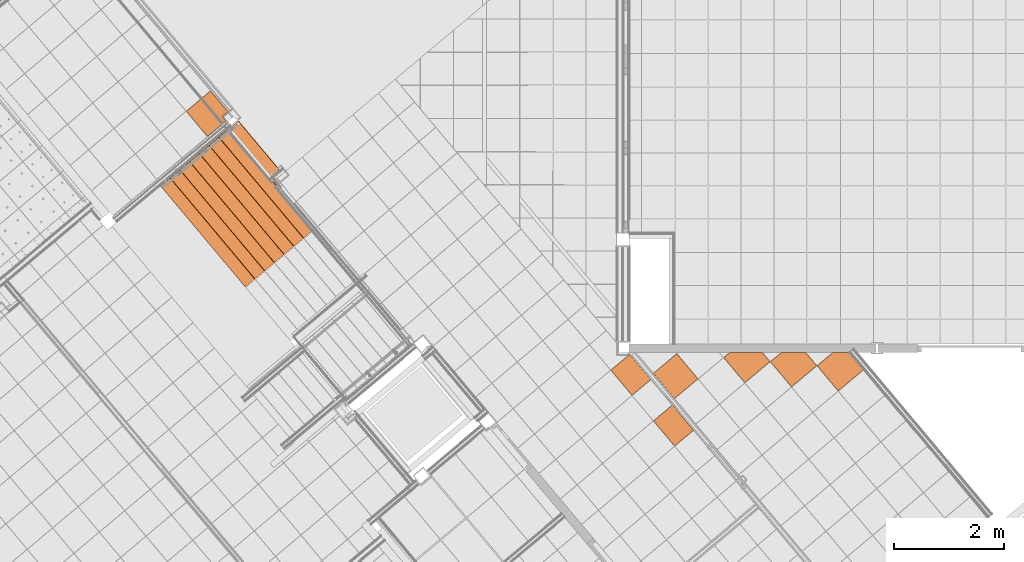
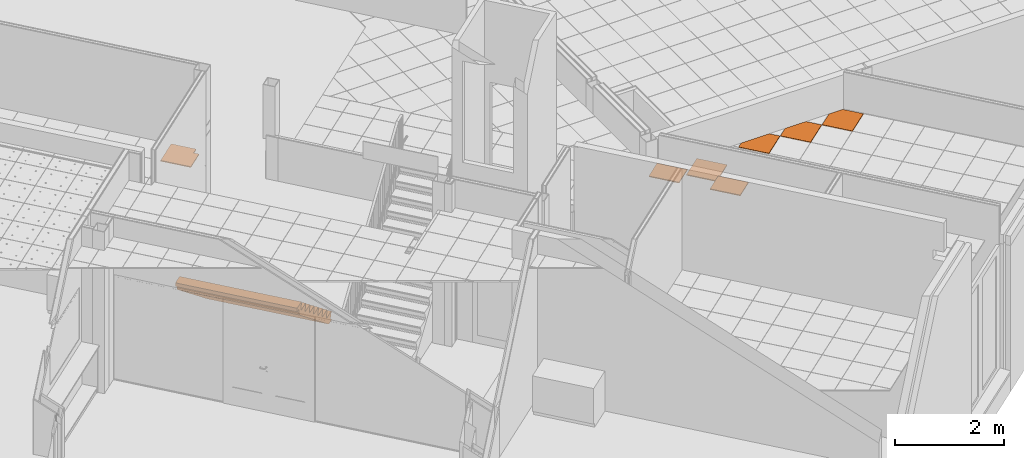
# One storey, part 319 of 338: 8 proxies, 3 elements without a shape of their own.
"""IFC2X3 building model written with IfcOpenShell, lengths in millimetres."""

from ifc_helpers import new_model, entity, si_unit, converted_unit, derived_unit, money_unit, direction, frame, origin_with_axes, place, context, subcontext, project, spatial, faceted_brep, material, type_object, element, aggregate, save


model = new_model("IFC2X3")

# Units and contexts
model_context = context("Model", 3, precision=0.01, world=origin_with_axes(), true_north=direction((0.0, 1.0)))
plan_context = context("Plan", 3, precision=0.01, world=origin_with_axes(), true_north=direction((0.0, 1.0)))
body_context = subcontext(model_context, "Body", "Model", "MODEL_VIEW")
ifc_project = project(units=[si_unit("LENGTHUNIT", "METRE", prefix="MILLI"), si_unit("AREAUNIT", "SQUARE_METRE"), si_unit("VOLUMEUNIT", "CUBIC_METRE"), converted_unit("PLANEANGLEUNIT", "DEGREE", entity("IfcPlaneAngleMeasure", 0.0174532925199), si_unit("PLANEANGLEUNIT", "RADIAN"), dimensions=[0, 0, 0, 0, 0, 0, 0]), money_unit("EUR"), converted_unit("TIMEUNIT", "Year", entity("IfcTimeMeasure", 31556926.0), si_unit("TIMEUNIT", "SECOND"), dimensions=[0, 0, 1, 0, 0, 0, 0]), si_unit("MASSUNIT", "GRAM", prefix="KILO"), si_unit("THERMODYNAMICTEMPERATUREUNIT", "DEGREE_CELSIUS"), si_unit("LUMINOUSINTENSITYUNIT", "LUMEN"), si_unit("ENERGYUNIT", "JOULE", prefix="MEGA"), derived_unit("THERMALCONDUCTANCEUNIT", [(si_unit("POWERUNIT", "WATT"), 1), (si_unit("LENGTHUNIT", "METRE"), -1), (si_unit("THERMODYNAMICTEMPERATUREUNIT", "KELVIN"), -1)]), derived_unit("SPECIFICHEATCAPACITYUNIT", [(si_unit("ENERGYUNIT", "JOULE"), 1), (si_unit("MASSUNIT", "GRAM", prefix="KILO"), -1), (si_unit("THERMODYNAMICTEMPERATUREUNIT", "KELVIN"), -1)]), derived_unit("MASSDENSITYUNIT", [(si_unit("MASSUNIT", "GRAM", prefix="KILO"), 1), (si_unit("VOLUMEUNIT", "CUBIC_METRE"), -1)])], contexts=[model_context, plan_context])

# Site, building, storey
site_placement = place(None, origin_with_axes())
site = spatial("IfcSite", under=ifc_project, at=site_placement, Name="Fortuinstraat Woensdrecht", CompositionType="ELEMENT")
building_placement = place(site_placement, origin_with_axes())
building = spatial("IfcBuilding", under=site, at=building_placement, Name="IKC Fortuna", CompositionType="ELEMENT")
storey_placement = place(building_placement, origin_with_axes())
storey = spatial("IfcBuildingStorey", under=building, at=storey_placement, Name="00 begane grond", CompositionType="ELEMENT", Elevation=0.0)

# Covering, proxy
covering_type = type_object("IfcCoveringType", Name="Curtain Wall Type", PredefinedType="CEILING")
covering_1_placement = place(storey_placement, frame((26804.4884552, -1724.43837499, 3010.0), z_axis=(0.0, 0.0, 1.0), x_axis=(1.0, 0.0, 0.0)))
covering_1 = element("IfcCovering", 1, at=covering_1_placement, inside=storey, type_object=covering_type, Name="45_Plafondafwerking_P04", PredefinedType="CEILING")
ifc_material = material(Name="Gipsplaat")
building_element_proxy_type_1 = type_object("IfcBuildingElementProxyType", Name="Distinct Panel 450 x 600 x 20", PredefinedType="NOTDEFINED")
proxy_1_placement = place(covering_1_placement, frame((-275.560282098, 2078.57505611, 0.0), z_axis=(0.0, 0.0, 1.0), x_axis=(1.0, 0.0, 0.0)))
proxy_1 = element("IfcBuildingElementProxy", 2, at=proxy_1_placement, type_object=building_element_proxy_type_1, material=ifc_material, Name="__Panel-D", context=body_context, shape_type="Brep", body=[
    faceted_brep([(-20.7915689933, 370.912433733, -10.0), (-361.666985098, 84.8840704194, -10.0), (-361.666985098, 84.8840704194, 9.99999999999), (-20.7915689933, 370.912433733, 9.99999999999), (361.666989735, -84.8840739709, -10.0), (20.7915736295, -370.912426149, -10.0), (20.7915736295, -370.912426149, 9.99999999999), (361.666989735, -84.8840739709, 9.99999999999)], [[[0, 1, 2, 3]], [[0, 4, 5, 1]], [[1, 5, 6, 2]], [[3, 2, 6, 7]], [[4, 0, 3, 7]], [[5, 4, 7, 6]]]),
])

# Covering, proxies
covering_2_placement = place(storey_placement, frame((30245.4600673, -364.084118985, 2810.0), z_axis=(0.0, 0.0, 1.0), x_axis=(1.0, 0.0, 0.0)))
covering_2 = element("IfcCovering", 3, at=covering_2_placement, inside=storey, type_object=covering_type, Name="45_Plafondafwerking_P02", PredefinedType="CEILING")
building_element_proxy_type_2 = type_object("IfcBuildingElementProxyType", Name="Distinct Panel 560 x 600 x 20", PredefinedType="NOTDEFINED")
proxy_2_placement = place(covering_2_placement, frame((-3677.73759696, 1613.48042307, 0.0), z_axis=(0.0, 0.0, 1.0), x_axis=(1.0, 0.0, 0.0)))
proxy_2 = element("IfcBuildingElementProxy", 4, at=proxy_2_placement, type_object=building_element_proxy_type_2, material=ifc_material, Name="__Panel-D", context=body_context, shape_type="Brep", body=[
    faceted_brep([(21.4932341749, 406.393247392, -10.0), (-403.951600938, 49.4034036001, -10.0), (-403.951600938, 49.4034036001, 9.99999999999), (21.4932341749, 406.393247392, 9.99999999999), (403.951389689, -49.4036021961, -10.0), (-21.4930186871, -406.393080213, -10.0), (-21.4930186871, -406.393080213, 9.99999999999), (403.951389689, -49.4036021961, 9.99999999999)], [[[0, 1, 2, 3]], [[0, 4, 5, 1]], [[1, 5, 6, 2]], [[3, 2, 6, 7]], [[4, 0, 3, 7]], [[5, 4, 7, 6]]]),
])
building_element_proxy_type_3 = type_object("IfcBuildingElementProxyType", Name="Distinct Panel 143 x 600 x 20", PredefinedType="NOTDEFINED")
proxy_3_placement = place(covering_2_placement, frame((-2401.30937422, 1879.50089324, 0.0), z_axis=(0.0, 0.0, 1.0), x_axis=(1.0, 0.0, 0.0)))
proxy_3 = element("IfcBuildingElementProxy", 5, at=proxy_3_placement, type_object=building_element_proxy_type_3, material=ifc_material, Name="__Panel-D", context=body_context, shape_type="Brep", body=[
    faceted_brep([(295.602299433, 159.381392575, -10.0), (-298.846325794, 159.381040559, -10.0), (-298.846325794, 159.381040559, 9.99999999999), (295.602299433, 159.381392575, 9.99999999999), (432.449381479, -3.70695950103, -10.0), (-23.3474503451, -386.165111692, -10.0), (-405.805602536, 69.6317327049, -10.0), (-405.805602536, 69.6317327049, 9.99999999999), (-23.3474503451, -386.165111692, 9.99999999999), (432.449381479, -3.70695950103, 9.99999999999)], [[[0, 1, 2, 3]], [[0, 4, 5, 6, 1]], [[1, 6, 7, 2]], [[3, 2, 7, 8, 9]], [[4, 0, 3, 9]], [[5, 4, 9, 8]], [[6, 5, 8, 7]]]),
])
building_element_proxy_type_4 = type_object("IfcBuildingElementProxyType", Name="Distinct Panel 258 x 600 x 20", PredefinedType="NOTDEFINED")
proxy_4_placement = place(covering_2_placement, frame((-1550.7939988, 1835.12816022, 0.0), z_axis=(0.0, 0.0, 1.0), x_axis=(1.0, 0.0, 0.0)))
proxy_4 = element("IfcBuildingElementProxy", 6, at=proxy_4_placement, type_object=building_element_proxy_type_4, material=ifc_material, Name="__Panel-D", context=body_context, shape_type="Brep", body=[
    faceted_brep([(228.33006903, 203.75476268, -10.0), (-215.925410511, 203.75444838, -10.0), (-215.925410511, 203.75444838, 9.99999999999), (228.33006903, 203.75476268, 9.99999999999), (427.233160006, -33.2892150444, -10.0), (-28.5636718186, -415.747367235, -10.0), (-411.021824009, 40.0494771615, -10.0), (-411.021824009, 40.0494771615, 9.99999999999), (-28.5636718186, -415.747367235, 9.99999999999), (427.233160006, -33.2892150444, 9.99999999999)], [[[0, 1, 2, 3]], [[0, 4, 5, 6, 1]], [[1, 6, 7, 2]], [[3, 2, 7, 8, 9]], [[4, 0, 3, 9]], [[5, 4, 9, 8]], [[6, 5, 8, 7]]]),
])
building_element_proxy_type_5 = type_object("IfcBuildingElementProxyType", Name="Distinct Panel 373 x 600 x 20", PredefinedType="NOTDEFINED")
proxy_5_placement = place(covering_2_placement, frame((-700.278613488, 1790.7553858, 0.0), z_axis=(0.0, 0.0, 1.0), x_axis=(1.0, 0.0, 0.0)))
proxy_5 = element("IfcBuildingElementProxy", 7, at=proxy_5_placement, type_object=building_element_proxy_type_5, material=ifc_material, Name="__Panel-D", context=body_context, shape_type="Brep", body=[
    faceted_brep([(161.057967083, 248.128023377, -10.0), (-133.004630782, 248.127822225, -10.0), (-133.004630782, 248.127822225, 9.99999999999), (161.057967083, 248.128023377, 9.99999999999), (422.016928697, -62.8714291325, -10.0), (-33.7799031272, -445.329581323, -10.0), (-416.238055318, 10.4672630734, -10.0), (-416.238055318, 10.4672630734, 9.99999999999), (-33.7799031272, -445.329581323, 9.99999999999), (422.016928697, -62.8714291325, 9.99999999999)], [[[0, 1, 2, 3]], [[0, 4, 5, 6, 1]], [[1, 6, 7, 2]], [[3, 2, 7, 8, 9]], [[4, 0, 3, 9]], [[5, 4, 9, 8]], [[6, 5, 8, 7]]]),
])
aggregate(covering_2, [proxy_3, proxy_4, proxy_2, proxy_5])

# Proxy
building_element_proxy_type_6 = type_object("IfcBuildingElementProxyType", Name="Distinct Panel 422 x 600 x 20", PredefinedType="NOTDEFINED")
proxy_6_placement = place(covering_1_placement, frame((-1059.94311594, 3152.65034348, 0.0), z_axis=(0.0, 0.0, 1.0), x_axis=(1.0, 0.0, 0.0)))
proxy_6 = element("IfcBuildingElementProxy", 8, at=proxy_6_placement, type_object=building_element_proxy_type_6, material=ifc_material, Name="__Panel-D", context=body_context, shape_type="Brep", body=[
    faceted_brep([(-7.75372733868, 216.090594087, -10.0), (-9.11040735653, 214.952208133, -10.0), (-9.11040735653, 214.952208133, 9.99999999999), (-7.75372733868, 216.090594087, 9.99999999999), (374.704829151, -239.70590773, -10.0), (33.829410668, -525.734263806, -10.0), (-348.629145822, -69.9377619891, -10.0), (-28.0205591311, 199.084694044, -10.0), (-9.11050753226, 199.084660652, -10.0), (-9.11050753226, 199.084660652, 9.99999999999), (-28.0205591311, 199.084694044, 9.99999999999), (-348.629145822, -69.9377619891, 9.99999999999), (33.829410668, -525.734263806, 9.99999999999), (374.704829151, -239.70590773, 9.99999999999)], [[[0, 1, 2, 3]], [[0, 4, 5, 6, 7, 8, 1]], [[1, 8, 9, 2]], [[3, 2, 9, 10, 11, 12, 13]], [[4, 0, 3, 13]], [[5, 4, 13, 12]], [[6, 5, 12, 11]], [[7, 6, 11, 10]], [[8, 7, 10, 9]]]),
])

aggregate(covering_1, [proxy_6, proxy_1])

# Covering, proxy
covering_3_placement = place(storey_placement, frame((15581.2998521, 5435.5548951, 3210.0), z_axis=(0.0, 0.0, 1.0), x_axis=(1.0, 0.0, 0.0)))
covering_3 = element("IfcCovering", 9, at=covering_3_placement, inside=storey, type_object=covering_type, Name="45_Plafondafwerking_P02 v", PredefinedType="CEILING")
building_element_proxy_type_7 = type_object("IfcBuildingElementProxyType", Name="Distinct Panel 132 x 495 x 20", PredefinedType="NOTDEFINED")
proxy_7_placement = place(covering_3_placement, frame((2620.36534626, 547.446638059, 0.0), z_axis=(0.0, 0.0, 1.0), x_axis=(1.0, 0.0, 0.0)))
proxy_7 = element("IfcBuildingElementProxy", 10, at=proxy_7_placement, type_object=building_element_proxy_type_7, material=ifc_material, Name="__Panel-D", context=body_context, shape_type="Brep", body=[
    faceted_brep([(-54.18377042, 427.705818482, -10.0), (-54.18377042, 427.705818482, 9.99999999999), (260.724233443, 52.4121988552, 9.99999999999), (260.724233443, 52.4121988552, -10.0), (-491.020504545, 61.156156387, -10.0), (-491.020504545, 61.156156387, 9.99999999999), (-108.561812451, -394.64023655, 9.99999999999), (226.773881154, -113.260088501, 9.99999999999), (159.223809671, -32.7576112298, 9.99999999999), (159.223809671, -32.7576112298, -10.0), (226.773881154, -113.260088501, -10.0), (-108.561812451, -394.64023655, -10.0)], [[[0, 1, 2, 3]], [[4, 5, 1, 0]], [[1, 5, 6, 7, 8, 2]], [[3, 2, 8, 9]], [[0, 3, 9, 10, 11, 4]], [[11, 6, 5, 4]], [[10, 7, 6, 11]], [[9, 8, 7, 10]]]),
])
aggregate(covering_3, [proxy_7])

# Proxy
building_element_proxy_type_8 = type_object("IfcBuildingElementProxyType", Name="Trapelement beton 25 KM", PredefinedType="NOTDEFINED")
proxy_8_placement = place(storey_placement, frame((18654.0419537, 5873.14101535, 0.0), z_axis=(0.0, 0.0, 1.0), x_axis=(-0.766044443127, -0.642787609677, 0.0)))
element("IfcBuildingElementProxy", 11, at=proxy_8_placement, inside=storey, type_object=building_element_proxy_type_8, Name="0_Building Element Proxy_T1.1", context=body_context, shape_type="Brep", body=[
    faceted_brep([(0.0, 0.0, -30.0), (0.0, 0.0, 0.0), (0.0, 2390.0, 0.0), (0.0, 2390.0, -30.0), (3.49953368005, 0.0, -7.71975380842e-06), (136.419515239, 0.0, -30.0), (296.846819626, 0.0, 96.423690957), (230.0, 0.0, 181.25), (10.0, 0.0, 181.25), (6.17316567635, 0.0, 180.488795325), (2.92893218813, 0.0, 178.321067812), (0.761204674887, 0.0, 175.076834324), (0.0, 0.0, 171.25), (0.0, 0.0, 156.95), (37.59, 0.0, 53.68), (38.7845888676, 0.0, 50.3920369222), (39.9999489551, 0.0, 43.4992984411), (39.9999335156, 0.0, 36.500231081), (38.7845430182, 0.0, 29.6074979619), (36.3907064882, 0.0, 23.0305312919), (32.8911594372, 0.0, 16.969168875), (28.3922338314, 0.0, 11.6075821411), (23.0306272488, 0.0, 7.10868019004), (16.9692493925, 0.0, 3.609159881), (10.3922721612, 0.0, 1.21535236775), (3.49953368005, 2390.0, -7.71975396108e-06), (10.3922721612, 2390.0, 1.21535236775), (16.9692493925, 2390.0, 3.609159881), (23.0306272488, 2390.0, 7.10868019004), (28.3922338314, 2390.0, 11.6075821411), (32.8911594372, 2390.0, 16.969168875), (36.3907064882, 2390.0, 23.0305312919), (38.7845430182, 2390.0, 29.6074979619), (39.9999335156, 2390.0, 36.500231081), (39.9999489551, 2390.0, 43.4992984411), (38.7845888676, 2390.0, 50.3920369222), (37.59, 2390.0, 53.68), (0.0, 2390.0, 156.95), (0.0, 2390.0, 171.25), (0.761204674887, 2390.0, 175.076834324), (2.92893218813, 2390.0, 178.321067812), (6.17316567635, 2390.0, 180.488795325), (10.0, 2390.0, 181.25), (230.0, 2390.0, 181.25), (296.846819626, 2390.0, 96.423690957), (136.419515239, 2390.0, -30.0)], [[[0, 1, 2, 3]], [[4, 1, 0, 5, 6, 7, 8, 9, 10, 11, 12, 13, 14, 15, 16, 17, 18, 19, 20, 21, 22, 23, 24]], [[1, 4, 25, 2]], [[2, 25, 26, 27, 28, 29, 30, 31, 32, 33, 34, 35, 36, 37, 38, 39, 40, 41, 42, 43, 44, 45, 3]], [[0, 3, 45, 5]], [[6, 5, 45, 44]], [[7, 6, 44, 43]], [[8, 7, 43, 42]], [[9, 8, 42, 41]], [[40, 10, 9, 41]], [[11, 10, 40, 39]], [[12, 11, 39, 38]], [[13, 12, 38, 37]], [[13, 37, 36, 14]], [[15, 14, 36, 35]], [[16, 15, 35, 34]], [[17, 16, 34, 33]], [[18, 17, 33, 32]], [[19, 18, 32, 31]], [[20, 19, 31, 30]], [[21, 20, 30, 29]], [[22, 21, 29, 28]], [[23, 22, 28, 27]], [[24, 23, 27, 26]], [[25, 4, 24, 26]]]),
    faceted_brep([(460.0, 2390.0, 362.5), (240.0, 2390.0, 362.5), (240.0, 0.0, 362.5), (460.0, 0.0, 362.5), (526.846819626, 2390.0, 277.673690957), (296.846819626, 2390.0, 96.423690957), (230.0, 2390.0, 181.25), (233.49953368, 2390.0, 181.24999228), (240.392272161, 2390.0, 182.465352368), (246.969249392, 2390.0, 184.859159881), (253.030627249, 2390.0, 188.35868019), (258.392233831, 2390.0, 192.857582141), (261.225007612, 2390.0, 196.25), (262.891159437, 2390.0, 198.219168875), (266.390706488, 2390.0, 204.280531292), (268.784543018, 2390.0, 210.857497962), (269.999933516, 2390.0, 217.750231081), (269.999948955, 2390.0, 224.749298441), (268.784588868, 2390.0, 231.642036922), (267.59, 2390.0, 234.93), (230.0, 2390.0, 338.2), (230.0, 2390.0, 352.5), (230.761204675, 2390.0, 356.326834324), (232.928932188, 2390.0, 359.571067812), (236.173165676, 2390.0, 361.738795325), (236.173165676, 0.0, 361.738795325), (232.928932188, 0.0, 359.571067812), (230.761204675, 0.0, 356.326834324), (230.0, 0.0, 352.5), (230.0, 0.0, 338.2), (267.59, 0.0, 234.93), (268.784588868, 0.0, 231.642036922), (269.999948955, 0.0, 224.749298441), (269.999933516, 0.0, 217.750231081), (268.784543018, 0.0, 210.857497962), (266.390706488, 0.0, 204.280531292), (262.891159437, 0.0, 198.219168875), (261.225007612, 0.0, 196.25), (258.392233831, 0.0, 192.857582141), (253.030627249, 0.0, 188.35868019), (246.969249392, 0.0, 184.859159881), (240.392272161, 0.0, 182.465352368), (233.49953368, 0.0, 181.24999228), (230.0, 0.0, 181.25), (296.846819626, 0.0, 96.423690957), (526.846819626, 0.0, 277.673690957)], [[[0, 1, 2, 3]], [[0, 4, 5, 6, 7, 8, 9, 10, 11, 12, 13, 14, 15, 16, 17, 18, 19, 20, 21, 22, 23, 24, 1]], [[1, 24, 25, 2]], [[3, 2, 25, 26, 27, 28, 29, 30, 31, 32, 33, 34, 35, 36, 37, 38, 39, 40, 41, 42, 43, 44, 45]], [[4, 0, 3, 45]], [[5, 4, 45, 44]], [[6, 5, 44, 43]], [[7, 6, 43, 42]], [[8, 7, 42, 41]], [[9, 8, 41, 40]], [[10, 9, 40, 39]], [[11, 10, 39, 38]], [[12, 11, 38, 37]], [[13, 12, 37, 36]], [[14, 13, 36, 35]], [[15, 14, 35, 34]], [[16, 15, 34, 33]], [[17, 16, 33, 32]], [[18, 17, 32, 31]], [[19, 18, 31, 30]], [[20, 19, 30, 29]], [[21, 20, 29, 28]], [[22, 21, 28, 27]], [[23, 22, 27, 26]], [[24, 23, 26, 25]]]),
    faceted_brep([(690.0, 2390.0, 543.75), (470.0, 2390.0, 543.75), (470.0, 0.0, 543.75), (690.0, 0.0, 543.75), (756.846819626, 2390.0, 458.923690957), (526.846819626, 2390.0, 277.673690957), (460.0, 2390.0, 362.5), (463.49953368, 2390.0, 362.49999228), (470.392272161, 2390.0, 363.715352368), (476.969249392, 2390.0, 366.109159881), (483.030627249, 2390.0, 369.60868019), (488.392233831, 2390.0, 374.107582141), (491.225007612, 2390.0, 377.5), (492.891159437, 2390.0, 379.469168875), (496.390706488, 2390.0, 385.530531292), (498.784543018, 2390.0, 392.107497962), (499.999933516, 2390.0, 399.000231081), (499.999948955, 2390.0, 405.999298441), (498.784588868, 2390.0, 412.892036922), (497.59, 2390.0, 416.18), (460.0, 2390.0, 519.45), (460.0, 2390.0, 533.75), (460.761204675, 2390.0, 537.576834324), (462.928932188, 2390.0, 540.821067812), (466.173165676, 2390.0, 542.988795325), (466.173165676, 0.0, 542.988795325), (462.928932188, 0.0, 540.821067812), (460.761204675, 0.0, 537.576834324), (460.0, 0.0, 533.75), (460.0, 0.0, 519.45), (497.59, 0.0, 416.18), (498.784588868, 0.0, 412.892036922), (499.999948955, 0.0, 405.999298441), (499.999933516, 0.0, 399.000231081), (498.784543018, 0.0, 392.107497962), (496.390706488, 0.0, 385.530531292), (492.891159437, 0.0, 379.469168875), (491.225007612, 0.0, 377.5), (488.392233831, 0.0, 374.107582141), (483.030627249, 0.0, 369.60868019), (476.969249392, 0.0, 366.109159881), (470.392272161, 0.0, 363.715352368), (463.49953368, 0.0, 362.49999228), (460.0, 0.0, 362.5), (526.846819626, 0.0, 277.673690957), (756.846819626, 0.0, 458.923690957)], [[[0, 1, 2, 3]], [[0, 4, 5, 6, 7, 8, 9, 10, 11, 12, 13, 14, 15, 16, 17, 18, 19, 20, 21, 22, 23, 24, 1]], [[1, 24, 25, 2]], [[3, 2, 25, 26, 27, 28, 29, 30, 31, 32, 33, 34, 35, 36, 37, 38, 39, 40, 41, 42, 43, 44, 45]], [[4, 0, 3, 45]], [[5, 4, 45, 44]], [[6, 5, 44, 43]], [[7, 6, 43, 42]], [[8, 7, 42, 41]], [[9, 8, 41, 40]], [[10, 9, 40, 39]], [[11, 10, 39, 38]], [[12, 11, 38, 37]], [[13, 12, 37, 36]], [[14, 13, 36, 35]], [[15, 14, 35, 34]], [[16, 15, 34, 33]], [[17, 16, 33, 32]], [[18, 17, 32, 31]], [[19, 18, 31, 30]], [[20, 19, 30, 29]], [[21, 20, 29, 28]], [[22, 21, 28, 27]], [[23, 22, 27, 26]], [[24, 23, 26, 25]]]),
    faceted_brep([(920.0, 2390.0, 725.0), (700.0, 2390.0, 725.0), (700.0, 0.0, 725.0), (920.0, 0.0, 725.0), (986.846819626, 2390.0, 640.173690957), (756.846819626, 2390.0, 458.923690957), (690.0, 2390.0, 543.75), (693.49953368, 2390.0, 543.74999228), (700.392272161, 2390.0, 544.965352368), (706.969249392, 2390.0, 547.359159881), (713.030627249, 2390.0, 550.85868019), (718.392233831, 2390.0, 555.357582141), (721.225007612, 2390.0, 558.75), (722.891159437, 2390.0, 560.719168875), (726.390706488, 2390.0, 566.780531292), (728.784543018, 2390.0, 573.357497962), (729.999933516, 2390.0, 580.250231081), (729.999948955, 2390.0, 587.249298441), (728.784588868, 2390.0, 594.142036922), (727.59, 2390.0, 597.43), (690.0, 2390.0, 700.7), (690.0, 2390.0, 715.0), (690.761204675, 2390.0, 718.826834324), (692.928932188, 2390.0, 722.071067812), (696.173165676, 2390.0, 724.238795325), (696.173165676, 0.0, 724.238795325), (692.928932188, 0.0, 722.071067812), (690.761204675, 0.0, 718.826834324), (690.0, 0.0, 715.0), (690.0, 0.0, 700.7), (727.59, 0.0, 597.43), (728.784588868, 0.0, 594.142036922), (729.999948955, 0.0, 587.249298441), (729.999933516, 0.0, 580.250231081), (728.784543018, 0.0, 573.357497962), (726.390706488, 0.0, 566.780531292), (722.891159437, 0.0, 560.719168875), (721.225007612, 0.0, 558.75), (718.392233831, 0.0, 555.357582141), (713.030627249, 0.0, 550.85868019), (706.969249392, 0.0, 547.359159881), (700.392272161, 0.0, 544.965352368), (693.49953368, 0.0, 543.74999228), (690.0, 0.0, 543.75), (756.846819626, 0.0, 458.923690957), (986.846819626, 0.0, 640.173690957)], [[[0, 1, 2, 3]], [[0, 4, 5, 6, 7, 8, 9, 10, 11, 12, 13, 14, 15, 16, 17, 18, 19, 20, 21, 22, 23, 24, 1]], [[1, 24, 25, 2]], [[3, 2, 25, 26, 27, 28, 29, 30, 31, 32, 33, 34, 35, 36, 37, 38, 39, 40, 41, 42, 43, 44, 45]], [[4, 0, 3, 45]], [[5, 4, 45, 44]], [[6, 5, 44, 43]], [[7, 6, 43, 42]], [[8, 7, 42, 41]], [[9, 8, 41, 40]], [[10, 9, 40, 39]], [[11, 10, 39, 38]], [[12, 11, 38, 37]], [[13, 12, 37, 36]], [[14, 13, 36, 35]], [[15, 14, 35, 34]], [[16, 15, 34, 33]], [[17, 16, 33, 32]], [[18, 17, 32, 31]], [[19, 18, 31, 30]], [[20, 19, 30, 29]], [[21, 20, 29, 28]], [[22, 21, 28, 27]], [[23, 22, 27, 26]], [[24, 23, 26, 25]]]),
    faceted_brep([(1150.0, 2390.0, 906.25), (930.0, 2390.0, 906.25), (930.0, 0.0, 906.25), (1150.0, 0.0, 906.25), (1216.84681963, 2390.0, 821.423690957), (986.846819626, 2390.0, 640.173690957), (920.0, 2390.0, 725.0), (923.49953368, 2390.0, 724.99999228), (930.392272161, 2390.0, 726.215352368), (936.969249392, 2390.0, 728.609159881), (943.030627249, 2390.0, 732.10868019), (948.392233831, 2390.0, 736.607582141), (951.225007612, 2390.0, 740.0), (952.891159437, 2390.0, 741.969168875), (956.390706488, 2390.0, 748.030531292), (958.784543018, 2390.0, 754.607497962), (959.999933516, 2390.0, 761.500231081), (959.999948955, 2390.0, 768.499298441), (958.784588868, 2390.0, 775.392036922), (957.59, 2390.0, 778.68), (920.0, 2390.0, 881.95), (920.0, 2390.0, 896.25), (920.761204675, 2390.0, 900.076834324), (922.928932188, 2390.0, 903.321067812), (926.173165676, 2390.0, 905.488795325), (926.173165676, 0.0, 905.488795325), (922.928932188, 0.0, 903.321067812), (920.761204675, 0.0, 900.076834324), (920.0, 0.0, 896.25), (920.0, 0.0, 881.95), (957.59, 0.0, 778.68), (958.784588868, 0.0, 775.392036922), (959.999948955, 0.0, 768.499298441), (959.999933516, 0.0, 761.500231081), (958.784543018, 0.0, 754.607497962), (956.390706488, 0.0, 748.030531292), (952.891159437, 0.0, 741.969168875), (951.225007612, 0.0, 740.0), (948.392233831, 0.0, 736.607582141), (943.030627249, 0.0, 732.10868019), (936.969249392, 0.0, 728.609159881), (930.392272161, 0.0, 726.215352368), (923.49953368, 0.0, 724.99999228), (920.0, 0.0, 725.0), (986.846819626, 0.0, 640.173690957), (1216.84681963, 0.0, 821.423690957)], [[[0, 1, 2, 3]], [[0, 4, 5, 6, 7, 8, 9, 10, 11, 12, 13, 14, 15, 16, 17, 18, 19, 20, 21, 22, 23, 24, 1]], [[1, 24, 25, 2]], [[3, 2, 25, 26, 27, 28, 29, 30, 31, 32, 33, 34, 35, 36, 37, 38, 39, 40, 41, 42, 43, 44, 45]], [[4, 0, 3, 45]], [[5, 4, 45, 44]], [[6, 5, 44, 43]], [[7, 6, 43, 42]], [[8, 7, 42, 41]], [[9, 8, 41, 40]], [[10, 9, 40, 39]], [[11, 10, 39, 38]], [[12, 11, 38, 37]], [[13, 12, 37, 36]], [[14, 13, 36, 35]], [[15, 14, 35, 34]], [[16, 15, 34, 33]], [[17, 16, 33, 32]], [[18, 17, 32, 31]], [[19, 18, 31, 30]], [[20, 19, 30, 29]], [[21, 20, 29, 28]], [[22, 21, 28, 27]], [[23, 22, 27, 26]], [[24, 23, 26, 25]]]),
    faceted_brep([(1380.0, 2390.0, 1087.5), (1160.0, 2390.0, 1087.5), (1160.0, 0.0, 1087.5), (1380.0, 0.0, 1087.5), (1446.84681963, 2390.0, 1002.67369096), (1216.84681963, 2390.0, 821.423690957), (1150.0, 2390.0, 906.25), (1153.49953368, 2390.0, 906.24999228), (1160.39227216, 2390.0, 907.465352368), (1166.96924939, 2390.0, 909.859159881), (1173.03062725, 2390.0, 913.35868019), (1178.39223383, 2390.0, 917.857582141), (1181.22500761, 2390.0, 921.25), (1182.89115944, 2390.0, 923.219168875), (1186.39070649, 2390.0, 929.280531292), (1188.78454302, 2390.0, 935.857497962), (1189.99993352, 2390.0, 942.750231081), (1189.99994896, 2390.0, 949.749298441), (1188.78458887, 2390.0, 956.642036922), (1187.59, 2390.0, 959.93), (1150.0, 2390.0, 1063.2), (1150.0, 2390.0, 1077.5), (1150.76120467, 2390.0, 1081.32683432), (1152.92893219, 2390.0, 1084.57106781), (1156.17316568, 2390.0, 1086.73879533), (1156.17316568, 0.0, 1086.73879533), (1152.92893219, 0.0, 1084.57106781), (1150.76120467, 0.0, 1081.32683432), (1150.0, 0.0, 1077.5), (1150.0, 0.0, 1063.2), (1187.59, 0.0, 959.93), (1188.78458887, 0.0, 956.642036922), (1189.99994896, 0.0, 949.749298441), (1189.99993352, 0.0, 942.750231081), (1188.78454302, 0.0, 935.857497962), (1186.39070649, 0.0, 929.280531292), (1182.89115944, 0.0, 923.219168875), (1181.22500761, 0.0, 921.25), (1178.39223383, 0.0, 917.857582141), (1173.03062725, 0.0, 913.35868019), (1166.96924939, 0.0, 909.859159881), (1160.39227216, 0.0, 907.465352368), (1153.49953368, 0.0, 906.24999228), (1150.0, 0.0, 906.25), (1216.84681963, 0.0, 821.423690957), (1446.84681963, 0.0, 1002.67369096)], [[[0, 1, 2, 3]], [[0, 4, 5, 6, 7, 8, 9, 10, 11, 12, 13, 14, 15, 16, 17, 18, 19, 20, 21, 22, 23, 24, 1]], [[1, 24, 25, 2]], [[3, 2, 25, 26, 27, 28, 29, 30, 31, 32, 33, 34, 35, 36, 37, 38, 39, 40, 41, 42, 43, 44, 45]], [[4, 0, 3, 45]], [[5, 4, 45, 44]], [[6, 5, 44, 43]], [[7, 6, 43, 42]], [[8, 7, 42, 41]], [[9, 8, 41, 40]], [[10, 9, 40, 39]], [[11, 10, 39, 38]], [[12, 11, 38, 37]], [[13, 12, 37, 36]], [[14, 13, 36, 35]], [[15, 14, 35, 34]], [[16, 15, 34, 33]], [[17, 16, 33, 32]], [[18, 17, 32, 31]], [[19, 18, 31, 30]], [[20, 19, 30, 29]], [[21, 20, 29, 28]], [[22, 21, 28, 27]], [[23, 22, 27, 26]], [[24, 23, 26, 25]]]),
    faceted_brep([(1610.0, 2390.0, 1268.75), (1390.0, 2390.0, 1268.75), (1390.0, 0.0, 1268.75), (1610.0, 0.0, 1268.75), (1676.84681963, 2390.0, 1183.92369096), (1446.84681963, 2390.0, 1002.67369096), (1380.0, 2390.0, 1087.5), (1383.49953368, 2390.0, 1087.49999228), (1390.39227216, 2390.0, 1088.71535237), (1396.96924939, 2390.0, 1091.10915988), (1403.03062725, 2390.0, 1094.60868019), (1408.39223383, 2390.0, 1099.10758214), (1411.22500761, 2390.0, 1102.5), (1412.89115944, 2390.0, 1104.46916888), (1416.39070649, 2390.0, 1110.53053129), (1418.78454302, 2390.0, 1117.10749796), (1419.99993352, 2390.0, 1124.00023108), (1419.99994896, 2390.0, 1130.99929844), (1418.78458887, 2390.0, 1137.89203692), (1417.59, 2390.0, 1141.18), (1380.0, 2390.0, 1244.45), (1380.0, 2390.0, 1258.75), (1380.76120467, 2390.0, 1262.57683432), (1382.92893219, 2390.0, 1265.82106781), (1386.17316568, 2390.0, 1267.98879533), (1386.17316568, 0.0, 1267.98879533), (1382.92893219, 0.0, 1265.82106781), (1380.76120467, 0.0, 1262.57683432), (1380.0, 0.0, 1258.75), (1380.0, 0.0, 1244.45), (1417.59, 0.0, 1141.18), (1418.78458887, 0.0, 1137.89203692), (1419.99994896, 0.0, 1130.99929844), (1419.99993352, 0.0, 1124.00023108), (1418.78454302, 0.0, 1117.10749796), (1416.39070649, 0.0, 1110.53053129), (1412.89115944, 0.0, 1104.46916888), (1411.22500761, 0.0, 1102.5), (1408.39223383, 0.0, 1099.10758214), (1403.03062725, 0.0, 1094.60868019), (1396.96924939, 0.0, 1091.10915988), (1390.39227216, 0.0, 1088.71535237), (1383.49953368, 0.0, 1087.49999228), (1380.0, 0.0, 1087.5), (1446.84681963, 0.0, 1002.67369096), (1676.84681963, 0.0, 1183.92369096)], [[[0, 1, 2, 3]], [[0, 4, 5, 6, 7, 8, 9, 10, 11, 12, 13, 14, 15, 16, 17, 18, 19, 20, 21, 22, 23, 24, 1]], [[1, 24, 25, 2]], [[3, 2, 25, 26, 27, 28, 29, 30, 31, 32, 33, 34, 35, 36, 37, 38, 39, 40, 41, 42, 43, 44, 45]], [[4, 0, 3, 45]], [[5, 4, 45, 44]], [[6, 5, 44, 43]], [[7, 6, 43, 42]], [[8, 7, 42, 41]], [[9, 8, 41, 40]], [[10, 9, 40, 39]], [[11, 10, 39, 38]], [[12, 11, 38, 37]], [[13, 12, 37, 36]], [[14, 13, 36, 35]], [[15, 14, 35, 34]], [[16, 15, 34, 33]], [[17, 16, 33, 32]], [[18, 17, 32, 31]], [[19, 18, 31, 30]], [[20, 19, 30, 29]], [[21, 20, 29, 28]], [[22, 21, 28, 27]], [[23, 22, 27, 26]], [[24, 23, 26, 25]]]),
    faceted_brep([(1740.0, 2390.0, 1233.69114288), (1740.0, 2390.0, 1370.0), (1740.0, 0.0, 1370.0), (1740.0, 0.0, 1233.69114288), (1676.84681963, 2390.0, 1183.92369096), (1610.0, 2390.0, 1268.75), (1613.49953368, 2390.0, 1268.74999228), (1620.39227216, 2390.0, 1269.96535237), (1626.96924939, 2390.0, 1272.35915988), (1633.03062725, 2390.0, 1275.85868019), (1638.39223383, 2390.0, 1280.35758214), (1641.22500761, 2390.0, 1283.75), (1642.89115944, 2390.0, 1285.71916888), (1646.39070649, 2390.0, 1291.78053129), (1648.78454302, 2390.0, 1298.35749796), (1649.99993352, 2390.0, 1305.25023108), (1649.99994896, 2390.0, 1312.24929844), (1648.78458887, 2390.0, 1319.14203692), (1647.59, 2390.0, 1322.43), (1610.0, 2390.0, 1425.7), (1610.0, 2390.0, 1440.0), (1610.76120467, 2390.0, 1443.82683432), (1612.92893219, 2390.0, 1447.07106781), (1616.17316568, 2390.0, 1449.23879533), (1620.0, 2390.0, 1450.0), (1840.0, 2390.0, 1450.0), (1840.0, 2390.0, 1370.0), (1840.0, 0.0, 1370.0), (1840.0, 0.0, 1450.0), (1620.0, 0.0, 1450.0), (1616.17316568, 0.0, 1449.23879533), (1612.92893219, 0.0, 1447.07106781), (1610.76120467, 0.0, 1443.82683432), (1610.0, 0.0, 1440.0), (1610.0, 0.0, 1425.7), (1647.59, 0.0, 1322.43), (1648.78458887, 0.0, 1319.14203692), (1649.99994896, 0.0, 1312.24929844), (1649.99993352, 0.0, 1305.25023108), (1648.78454302, 0.0, 1298.35749796), (1646.39070649, 0.0, 1291.78053129), (1642.89115944, 0.0, 1285.71916888), (1641.22500761, 0.0, 1283.75), (1638.39223383, 0.0, 1280.35758214), (1633.03062725, 0.0, 1275.85868019), (1626.96924939, 0.0, 1272.35915988), (1620.39227216, 0.0, 1269.96535237), (1613.49953368, 0.0, 1268.74999228), (1610.0, 0.0, 1268.75), (1676.84681963, 0.0, 1183.92369096)], [[[0, 1, 2, 3]], [[0, 4, 5, 6, 7, 8, 9, 10, 11, 12, 13, 14, 15, 16, 17, 18, 19, 20, 21, 22, 23, 24, 25, 26, 1]], [[1, 26, 27, 2]], [[3, 2, 27, 28, 29, 30, 31, 32, 33, 34, 35, 36, 37, 38, 39, 40, 41, 42, 43, 44, 45, 46, 47, 48, 49]], [[4, 0, 3, 49]], [[5, 4, 49, 48]], [[6, 5, 48, 47]], [[7, 6, 47, 46]], [[8, 7, 46, 45]], [[9, 8, 45, 44]], [[10, 9, 44, 43]], [[11, 10, 43, 42]], [[12, 11, 42, 41]], [[13, 12, 41, 40]], [[14, 13, 40, 39]], [[15, 14, 39, 38]], [[16, 15, 38, 37]], [[17, 16, 37, 36]], [[18, 17, 36, 35]], [[19, 18, 35, 34]], [[20, 19, 34, 33]], [[21, 20, 33, 32]], [[22, 21, 32, 31]], [[23, 22, 31, 30]], [[24, 23, 30, 29]], [[25, 24, 29, 28]], [[26, 25, 28, 27]]]),
])

save(model, "model.ifc")
